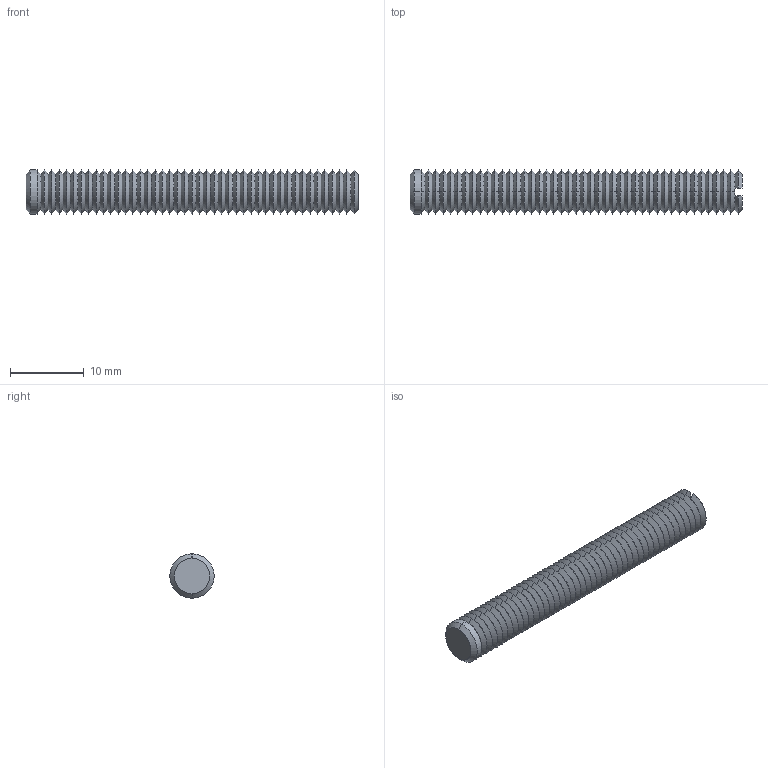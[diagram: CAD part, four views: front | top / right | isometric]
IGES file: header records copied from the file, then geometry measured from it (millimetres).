
Start section: SolidWorks IGES file using analytic representation for surfaces
Global section: file name: C:\Documents and Settings\IANO\Desktop\Temp File\Process pending\EXISTING\34300_v2\34300_v2_20170622_IGES\34300.W0065.igs; native system: SolidWorks 2009; preprocessor: SolidWorks 2009; author: IANO; date: 170622.093633; units: millimetre
Bounding box: 45 x 6 x 6 mm (x, y, z)
Surface area: 1249.9 mm2 (no closed solid volume)
Topology: 0 solids, 0 shells, 184 faces, 800 edges, 800 vertices
Faces by surface type: revolution 178, bspline 6
